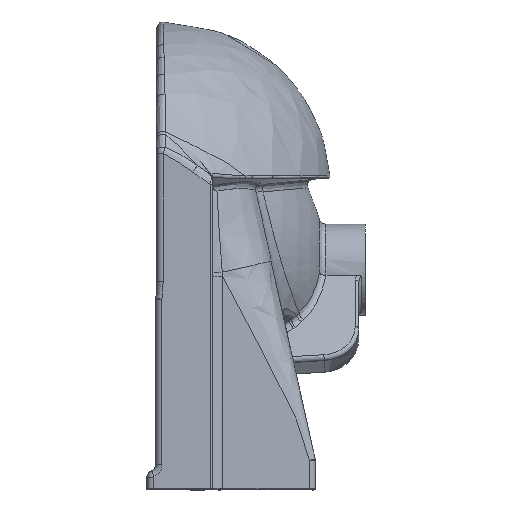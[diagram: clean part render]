
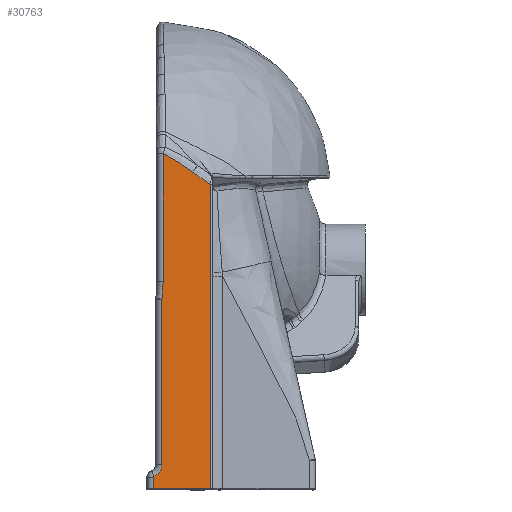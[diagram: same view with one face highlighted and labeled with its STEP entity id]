
A CAD part, left-side view. The second image highlights one B-rep face of the part: STEP entity #30763.
In plain terms, the highlighted planar face has unit normal (-1, -0.016, 0).
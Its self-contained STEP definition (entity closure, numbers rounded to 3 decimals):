
#473 = B_SPLINE_CURVE_WITH_KNOTS ( 'NONE', 3,
 ( #32743, #11905, #43939, #2087, #1392, #26557, #12810, #9145 ),
 .UNSPECIFIED., .F., .F.,
 ( 4, 2, 2, 4 ),
 ( 0., 0.007, 0.011, 0.014 ),
 .UNSPECIFIED. ) ;
#1145 = CARTESIAN_POINT ( 'NONE',  ( -224.62, -13.306, 127.755 ) ) ;
#1210 = ORIENTED_EDGE ( 'NONE', *, *, #10106, .T. ) ;
#1392 = CARTESIAN_POINT ( 'NONE',  ( -224.761, -4.7, 20.088 ) ) ;
#1875 = DIRECTION ( 'NONE',  ( 0., 0., -1. ) ) ;
#2087 = CARTESIAN_POINT ( 'NONE',  ( -224.759, -4.798, 21.265 ) ) ;
#3212 = EDGE_CURVE ( 'NONE', #31633, #3815, #22686, .T. ) ;
#3335 = DIRECTION ( 'NONE',  ( 1., 0.016, 0. ) ) ;
#3700 = VECTOR ( 'NONE', #40990, 1000. ) ;
#3815 = VERTEX_POINT ( 'NONE', #39914 ) ;
#4175 = CARTESIAN_POINT ( 'NONE',  ( -224.132, -43.033, 107.23 ) ) ;
#4312 = EDGE_CURVE ( 'NONE', #19278, #44999, #39726, .T. ) ;
#5139 = CARTESIAN_POINT ( 'NONE',  ( -224.132, -43.033, -136.5 ) ) ;
#5921 = ORIENTED_EDGE ( 'NONE', *, *, #3212, .T. ) ;
#6581 = CARTESIAN_POINT ( 'NONE',  ( -224.754, -5.082, 132.093 ) ) ;
#6588 = DIRECTION ( 'NONE',  ( 0., 0., -1. ) ) ;
#6899 = VERTEX_POINT ( 'NONE', #28632 ) ;
#7002 = CARTESIAN_POINT ( 'NONE',  ( -224.771, -4.082, 15.396 ) ) ;
#8276 = CARTESIAN_POINT ( 'NONE',  ( -224.886, 2.918, -127.642 ) ) ;
#8289 = CARTESIAN_POINT ( 'NONE',  ( -224.875, 2.282, -126.71 ) ) ;
#8462 = B_SPLINE_CURVE_WITH_KNOTS ( 'NONE', 3,
 ( #24169, #10891, #34480, #31725, #21419, #24855, #13427, #9974 ),
 .UNSPECIFIED., .F., .F.,
 ( 4, 2, 2, 4 ),
 ( 0.002, 0.007, 0.011, 0.02 ),
 .UNSPECIFIED. ) ;
#8846 = CARTESIAN_POINT ( 'NONE',  ( -224.132, -43.033, 112.5 ) ) ;
#9145 = CARTESIAN_POINT ( 'NONE',  ( -224.771, -4.082, 15.396 ) ) ;
#9434 = ORIENTED_EDGE ( 'NONE', *, *, #29308, .T. ) ;
#9624 = LINE ( 'NONE', #40767, #16181 ) ;
#9974 = CARTESIAN_POINT ( 'NONE',  ( -224.367, -28.684, 117.389 ) ) ;
#10106 = EDGE_CURVE ( 'NONE', #27543, #19278, #8462, .T. ) ;
#10557 = EDGE_CURVE ( 'NONE', #13444, #31633, #30151, .T. ) ;
#10685 =( BOUNDED_CURVE ( )  B_SPLINE_CURVE ( 3, ( #31755, #25115, #11366, #28326 ),
 .UNSPECIFIED., .F., .F. ) 
 B_SPLINE_CURVE_WITH_KNOTS ( ( 4, 4 ),
 ( 3.142, 4.34 ),
 .UNSPECIFIED. ) 
 CURVE ( )  GEOMETRIC_REPRESENTATION_ITEM ( )  RATIONAL_B_SPLINE_CURVE ( ( 1., 0.884, 0.884, 1. ) ) 
 REPRESENTATION_ITEM ( '' )  );
#10891 = CARTESIAN_POINT ( 'NONE',  ( -224.153, -41.79, 108.01 ) ) ;
#11243 = ORIENTED_EDGE ( 'NONE', *, *, #30288, .T. ) ;
#11366 = CARTESIAN_POINT ( 'NONE',  ( -224.81, -1.682, -125.163 ) ) ;
#11905 = CARTESIAN_POINT ( 'NONE',  ( -224.754, -5.082, 27.165 ) ) ;
#12671 = VECTOR ( 'NONE', #28592, 1000. ) ;
#12810 = CARTESIAN_POINT ( 'NONE',  ( -224.767, -4.283, 16.566 ) ) ;
#13427 = CARTESIAN_POINT ( 'NONE',  ( -224.329, -31.009, 115.603 ) ) ;
#13444 = VERTEX_POINT ( 'NONE', #8289 ) ;
#13587 = CARTESIAN_POINT ( 'NONE',  ( -224.367, -28.684, 117.389 ) ) ;
#13874 = DIRECTION ( 'NONE',  ( 0., 0., 1. ) ) ;
#16181 = VECTOR ( 'NONE', #1875, 1000. ) ;
#16252 = EDGE_CURVE ( 'NONE', #3815, #39381, #35675, .T. ) ;
#16676 = VECTOR ( 'NONE', #6588, 1000. ) ;
#17522 = CARTESIAN_POINT ( 'NONE',  ( -225.1, 16., 112.5 ) ) ;
#18533 = ORIENTED_EDGE ( 'NONE', *, *, #4312, .T. ) ;
#19278 = VERTEX_POINT ( 'NONE', #13587 ) ;
#20233 = CARTESIAN_POINT ( 'NONE',  ( -224.882, 2.678, -126.865 ) ) ;
#20724 = FACE_OUTER_BOUND ( 'NONE', #43261, .T. ) ;
#21091 = VERTEX_POINT ( 'NONE', #30816 ) ;
#21139 = ORIENTED_EDGE ( 'NONE', *, *, #16252, .T. ) ;
#21419 = CARTESIAN_POINT ( 'NONE',  ( -224.233, -36.898, 111.247 ) ) ;
#22686 = LINE ( 'NONE', #40324, #3700 ) ;
#22808 = LINE ( 'NONE', #8846, #35716 ) ;
#24169 = CARTESIAN_POINT ( 'NONE',  ( -224.132, -43.033, 107.23 ) ) ;
#24855 = CARTESIAN_POINT ( 'NONE',  ( -224.291, -33.339, 113.825 ) ) ;
#24971 = AXIS2_PLACEMENT_3D ( 'NONE', #17522, #3335, #13874 ) ;
#25115 = CARTESIAN_POINT ( 'NONE',  ( -224.771, -4.082, -121.65 ) ) ;
#26557 = CARTESIAN_POINT ( 'NONE',  ( -224.765, -4.442, 17.739 ) ) ;
#27543 = VERTEX_POINT ( 'NONE', #4175 ) ;
#28326 = CARTESIAN_POINT ( 'NONE',  ( -224.875, 2.282, -126.71 ) ) ;
#28592 = DIRECTION ( 'NONE',  ( 0.016, -1., 0. ) ) ;
#28632 = CARTESIAN_POINT ( 'NONE',  ( -224.771, -4.082, -117.395 ) ) ;
#29074 = CARTESIAN_POINT ( 'NONE',  ( -224.428, -24.996, 120.22 ) ) ;
#29081 = EDGE_CURVE ( 'NONE', #41170, #6899, #33827, .T. ) ;
#29308 = EDGE_CURVE ( 'NONE', #6899, #13444, #10685, .T. ) ;
#30151 =( BOUNDED_CURVE ( )  B_SPLINE_CURVE ( 3, ( #38294, #20233, #34200, #35099 ),
 .UNSPECIFIED., .F., .F. ) 
 B_SPLINE_CURVE_WITH_KNOTS ( ( 4, 4 ),
 ( 5.085, 6.283 ),
 .UNSPECIFIED. ) 
 CURVE ( )  GEOMETRIC_REPRESENTATION_ITEM ( )  RATIONAL_B_SPLINE_CURVE ( ( 1., 0.884, 0.884, 1. ) ) 
 REPRESENTATION_ITEM ( '' )  );
#30288 = EDGE_CURVE ( 'NONE', #39381, #27543, #22808, .T. ) ;
#30763 = ADVANCED_FACE ( 'NONE', ( #20724 ), #34682, .F. ) ;
#30816 = CARTESIAN_POINT ( 'NONE',  ( -224.754, -5.082, 29.533 ) ) ;
#31338 = ORIENTED_EDGE ( 'NONE', *, *, #33109, .T. ) ;
#31633 = VERTEX_POINT ( 'NONE', #8276 ) ;
#31725 = CARTESIAN_POINT ( 'NONE',  ( -224.213, -38.095, 110.4 ) ) ;
#31755 = CARTESIAN_POINT ( 'NONE',  ( -224.771, -4.082, -117.395 ) ) ;
#32276 = CARTESIAN_POINT ( 'NONE',  ( -224.754, -5.082, 132.093 ) ) ;
#32461 = CARTESIAN_POINT ( 'NONE',  ( -224.132, -43.033, -136.5 ) ) ;
#32468 = ORIENTED_EDGE ( 'NONE', *, *, #37411, .T. ) ;
#32499 = CARTESIAN_POINT ( 'NONE',  ( -224.49, -21.183, 122.86 ) ) ;
#32692 = ORIENTED_EDGE ( 'NONE', *, *, #29081, .T. ) ;
#32743 = CARTESIAN_POINT ( 'NONE',  ( -224.754, -5.082, 29.533 ) ) ;
#33109 = EDGE_CURVE ( 'NONE', #44999, #21091, #9624, .T. ) ;
#33827 = LINE ( 'NONE', #41592, #16676 ) ;
#34200 = CARTESIAN_POINT ( 'NONE',  ( -224.886, 2.918, -127.216 ) ) ;
#34480 = CARTESIAN_POINT ( 'NONE',  ( -224.173, -40.545, 108.787 ) ) ;
#34682 = PLANE ( 'NONE',  #24971 ) ;
#35099 = CARTESIAN_POINT ( 'NONE',  ( -224.886, 2.918, -127.642 ) ) ;
#35675 = LINE ( 'NONE', #32461, #12671 ) ;
#35716 = VECTOR ( 'NONE', #39977, 1000. ) ;
#37411 = EDGE_CURVE ( 'NONE', #21091, #41170, #473, .T. ) ;
#38294 = CARTESIAN_POINT ( 'NONE',  ( -224.875, 2.282, -126.71 ) ) ;
#39381 = VERTEX_POINT ( 'NONE', #5139 ) ;
#39726 = B_SPLINE_CURVE_WITH_KNOTS ( 'NONE', 3,
 ( #42797, #29074, #32499, #1145, #39811, #32276 ),
 .UNSPECIFIED., .F., .F.,
 ( 4, 2, 4 ),
 ( 0., 0.014, 0.028 ),
 .UNSPECIFIED. ) ;
#39811 = CARTESIAN_POINT ( 'NONE',  ( -224.686, -9.238, 130.018 ) ) ;
#39914 = CARTESIAN_POINT ( 'NONE',  ( -224.886, 2.918, -136.5 ) ) ;
#39977 = DIRECTION ( 'NONE',  ( 0., 0., 1. ) ) ;
#40324 = CARTESIAN_POINT ( 'NONE',  ( -224.886, 2.918, -137.5 ) ) ;
#40386 = ORIENTED_EDGE ( 'NONE', *, *, #10557, .T. ) ;
#40767 = CARTESIAN_POINT ( 'NONE',  ( -224.754, -5.082, 112.5 ) ) ;
#40990 = DIRECTION ( 'NONE',  ( 0., 0., -1. ) ) ;
#41170 = VERTEX_POINT ( 'NONE', #7002 ) ;
#41592 = CARTESIAN_POINT ( 'NONE',  ( -224.771, -4.082, 112.5 ) ) ;
#42797 = CARTESIAN_POINT ( 'NONE',  ( -224.367, -28.684, 117.389 ) ) ;
#43261 = EDGE_LOOP ( 'NONE', ( #5921, #21139, #11243, #1210, #18533, #31338, #32468, #32692, #9434, #40386 ) ) ;
#43939 = CARTESIAN_POINT ( 'NONE',  ( -224.755, -5.023, 24.801 ) ) ;
#44999 = VERTEX_POINT ( 'NONE', #6581 ) ;
